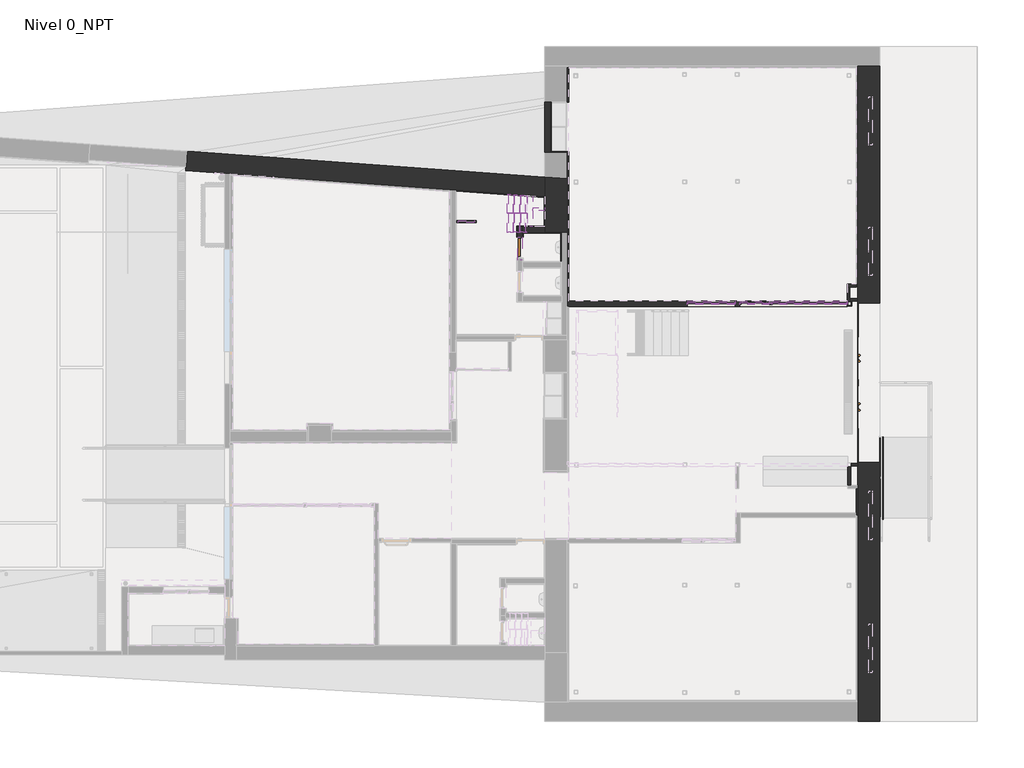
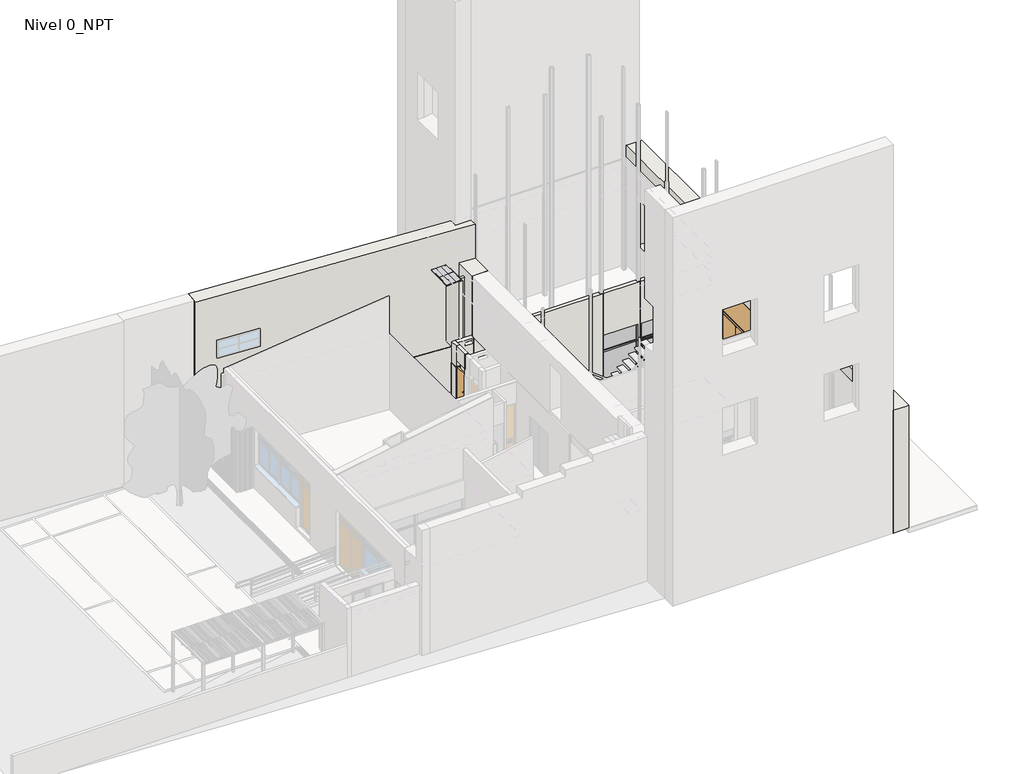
# One storey, part 4 of 10: 31 walls, 27 members, 12 plates, 2 doors.
"""IFC4 building model written with IfcOpenShell, lengths in millimetres."""

from ifc_helpers import new_model, si_unit, frame, origin, origin_with_axes, place, context, project, spatial, polyline, outline, extrude, faceted_brep, transform, mapped, element, save
from components import door_b717b98c, arq_pu_int_alu_muro_cortina_8b8c43b7, montante_rectangular_10x10_5bd723db, montante_rectangular_3x3_94af334b, montante_rectangular_3x3_5f3f12a8, montante_rectangular_3x3_048b7d03, montante_rectangular_3x3_fce5142b, montante_rectangular_3x3_7944bb15, montante_rectangular_3x3_4dd73645, montante_rectangular_3x3_912540fd, montante_rectangular_3x3_ade2416c, montante_rectangular_3x3_da87f401, montante_rectangular_3x3_93c7497e, montante_rectangular_3x3_420c5f01, montante_rectangular_3x3_f926777b, montante_rectangular_3x3_588625e3, montante_rectangular_5x10_45e54374, montante_rectangular_5x10_c640f651, montante_rectangular_5x10_7026a3ec, montante_rectangular_5x5_ec66791f, montante_rectangular_5x5_64893cda, montante_rectangular_5x5_87f91fce, montante_rectangular_5x5_5d55378c, plate_90a0065f, plate_c496a2fa, plate_78eba206, plate_9a7a51d2, plate_cf4ffe34, panel_de_sistema_c84e7177, panel_de_sistema_565d0dc5, panel_de_sistema_14e4dad8, panel_de_sistema_576842d0, panel_de_sistema_opaco_64d52f82

model = new_model("IFC4")

# Units and contexts
model_context = context("Model", 3, world=origin())
ifc_project = project(units=[si_unit("LENGTHUNIT", "METRE", prefix="MILLI")], contexts=[model_context])

# Site, building, storey
site = spatial("IfcSite", under=ifc_project)
building = spatial("IfcBuilding", under=site)
storey = spatial("IfcBuildingStorey", under=building, Name="Nivel 0_NPT", Elevation=0.0)

# Doors
placement = place(None, origin())
door_shape = door_b717b98c(model_context)
element("IfcDoor", 1, ObjectType="ARQ-MAM-EX-490x350-Vid : ARQ-MAM-EX-490x350-Vid", at=placement, inside=storey, context=model_context, shape_type="MappedRepresentation", body=[
    mapped(door_shape, transform((15304.8126262, 4008.607185, 0.0), x_axis=(0.0, 1.0, 0.0), y_axis=(-1.0, 0.0, 0.0), z_axis=(0.0, 0.0, 1.0))),
])
arq_pu_int_alu_muro_cortina_shape = arq_pu_int_alu_muro_cortina_8b8c43b7(model_context)
element("IfcDoor", 2, ObjectType="ARQ-PU-INT-Alu (muro cortina) : ARQ-PU-IN-Alu-sshh", at=placement, inside=storey, context=model_context, shape_type="MappedRepresentation", body=[
    mapped(arq_pu_int_alu_muro_cortina_shape, transform((4589.8126262, 8158.6072273, 320.0), x_axis=(0.0, 1.0, 0.0), y_axis=(-1.0, 0.0, 0.0), z_axis=(0.0, 0.0, 1.0))),
])

# Members
montante_rectangular_10x10_shape = montante_rectangular_10x10_5bd723db(model_context)
element("IfcMember", 3, ObjectType="Montante rectangular : 10x10", at=placement, inside=storey, context=model_context, shape_type="MappedRepresentation", body=[
    mapped(montante_rectangular_10x10_shape, transform((12246.8128558, 6459.960425, 0.0), x_axis=(1.0, 0.0, 0.0), y_axis=(0.0, -1.0, 0.0), z_axis=(0.0, 0.0, -1.0))),
])
montante_rectangular_3x3_shape = montante_rectangular_3x3_94af334b(model_context)
element("IfcMember", 4, ObjectType="Montante rectangular : 3x3", at=placement, inside=storey, context=model_context, shape_type="MappedRepresentation", body=[
    mapped(montante_rectangular_3x3_shape, transform((4397.9716772, 9793.2196154, 5865.6209139), x_axis=(0.07274868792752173, 0.9973407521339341, 0.0043649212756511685), y_axis=(0.059892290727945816, 0.0, -0.9982048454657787), z_axis=(-0.9955503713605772, 0.07287951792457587, -0.059733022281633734))),
])
montante_rectangular_3x3_2_shape = montante_rectangular_3x3_5f3f12a8(model_context)
element("IfcMember", 5, ObjectType="Montante rectangular : 3x3", at=placement, inside=storey, context=model_context, shape_type="MappedRepresentation", body=[
    mapped(montante_rectangular_3x3_2_shape, transform((4601.1307282, 8623.6072273, 5877.8104569), x_axis=(0.0, -1.0, 0.0), y_axis=(0.05989229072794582, 0.0, -0.9982048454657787), z_axis=(0.9982048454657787, 0.0, 0.05989229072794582))),
])
montante_rectangular_3x3_3_shape = montante_rectangular_3x3_048b7d03(model_context)
element("IfcMember", 6, ObjectType="Montante rectangular : 3x3", at=placement, inside=storey, context=model_context, shape_type="MappedRepresentation", body=[
    mapped(montante_rectangular_3x3_3_shape, transform((4224.7587716, 9215.8495763, 5855.2281395), x_axis=(0.0, 1.0, 0.0), y_axis=(0.05989229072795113, 0.0, -0.9982048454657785), z_axis=(-0.9982048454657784, 0.0, -0.059892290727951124))),
])
element("IfcMember", 7, ObjectType="Montante rectangular : 3x3", at=placement, inside=storey, context=model_context, shape_type="MappedRepresentation", body=[
    mapped(montante_rectangular_3x3_3_shape, transform((4616.1038009, 9215.8495763, 5878.7088413), x_axis=(0.0, 1.0, 0.0), y_axis=(0.05989229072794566, 0.0, -0.9982048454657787), z_axis=(-0.9982048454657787, 0.0, -0.05989229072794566))),
])
montante_rectangular_3x3_4_shape = montante_rectangular_3x3_fce5142b(model_context)
element("IfcMember", 8, ObjectType="Montante rectangular : 3x3", at=placement, inside=storey, context=model_context, shape_type="MappedRepresentation", body=[
    mapped(montante_rectangular_3x3_4_shape, transform((4412.9447499, 9215.8495763, 5866.5192982), x_axis=(0.0, 1.0, 0.0), y_axis=(0.05989229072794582, 0.0, -0.9982048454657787), z_axis=(-0.9982048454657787, 0.0, -0.05989229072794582))),
])
montante_rectangular_3x3_5_shape = montante_rectangular_3x3_7944bb15(model_context)
element("IfcMember", 9, ObjectType="Montante rectangular : 3x3", at=placement, inside=storey, context=model_context, shape_type="MappedRepresentation", body=[
    mapped(montante_rectangular_3x3_5_shape, transform((4774.3436338, 8623.6072273, 5888.2032313), x_axis=(0.0, -1.0, 0.0), y_axis=(0.05989229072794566, 0.0, -0.9982048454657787), z_axis=(0.9982048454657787, 0.0, 0.05989229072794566))),
])
element("IfcMember", 10, ObjectType="Montante rectangular : 3x3", at=placement, inside=storey, context=model_context, shape_type="MappedRepresentation", body=[
    mapped(montante_rectangular_3x3_5_shape, transform((4397.9716772, 8623.6072273, 5865.6209139), x_axis=(0.0, -1.0, 0.0), y_axis=(0.05989229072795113, 0.0, -0.9982048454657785), z_axis=(0.9982048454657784, 0.0, 0.059892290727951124))),
])
montante_rectangular_3x3_6_shape = montante_rectangular_3x3_4dd73645(model_context)
element("IfcMember", 11, ObjectType="Montante rectangular : 3x3", at=placement, inside=storey, context=model_context, shape_type="MappedRepresentation", body=[
    mapped(montante_rectangular_3x3_6_shape, transform((4804.2897792, 9763.4749955, 5890.0), x_axis=(0.9982048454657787, 0.0, 0.059892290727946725), y_axis=(0.059892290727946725, 0.0, -0.9982048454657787), z_axis=(0.0, 1.0, 0.0))),
])
montante_rectangular_3x3_7_shape = montante_rectangular_3x3_912540fd(model_context)
element("IfcMember", 12, ObjectType="Montante rectangular : 3x3", at=placement, inside=storey, context=model_context, shape_type="MappedRepresentation", body=[
    mapped(montante_rectangular_3x3_7_shape, transform((4194.8126262, 8623.6072273, 5853.4313708), x_axis=(-0.9982048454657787, 0.0, -0.059892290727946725), y_axis=(0.059892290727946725, 0.0, -0.9982048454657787), z_axis=(0.0, -1.0, 0.0))),
])
montante_rectangular_3x3_8_shape = montante_rectangular_3x3_ade2416c(model_context)
element("IfcMember", 13, ObjectType="Montante rectangular : 3x3", at=placement, inside=storey, context=model_context, shape_type="MappedRepresentation", body=[
    mapped(montante_rectangular_3x3_8_shape, transform((4194.8126262, 9808.0919254, 5853.4313708), x_axis=(0.0727486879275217, 0.9973407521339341, 0.004364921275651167), y_axis=(0.05989229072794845, 0.0, -0.9982048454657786), z_axis=(-0.9955503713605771, 0.07287951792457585, -0.05973302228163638))),
])
montante_rectangular_3x3_9_shape = montante_rectangular_3x3_da87f401(model_context)
element("IfcMember", 14, ObjectType="Montante rectangular : 3x3", at=placement, inside=storey, context=model_context, shape_type="MappedRepresentation", body=[
    mapped(montante_rectangular_3x3_9_shape, transform((4601.1307282, 8653.6072273, 5877.8104569), x_axis=(-0.9982048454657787, 0.0, -0.059892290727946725), y_axis=(0.059892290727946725, 0.0, -0.9982048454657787), z_axis=(0.0, -1.0, 0.0))),
])
element("IfcMember", 15, ObjectType="Montante rectangular : 3x3", at=placement, inside=storey, context=model_context, shape_type="MappedRepresentation", body=[
    mapped(montante_rectangular_3x3_9_shape, transform((4397.9716772, 8653.6072273, 5865.6209139), x_axis=(-0.9982048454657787, 0.0, -0.059892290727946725), y_axis=(0.059892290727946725, 0.0, -0.9982048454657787), z_axis=(0.0, -1.0, 0.0))),
])
montante_rectangular_3x3_10_shape = montante_rectangular_3x3_93c7497e(model_context)
element("IfcMember", 16, ObjectType="Montante rectangular : 3x3", at=placement, inside=storey, context=model_context, shape_type="MappedRepresentation", body=[
    mapped(montante_rectangular_3x3_10_shape, transform((4601.1307282, 9778.3473055, 5877.8104569), x_axis=(0.07274868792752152, 0.9973407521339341, 0.004364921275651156), y_axis=(0.059892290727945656, 0.0, -0.9982048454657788), z_axis=(-0.9955503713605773, 0.07287951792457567, -0.059733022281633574))),
])
montante_rectangular_3x3_11_shape = montante_rectangular_3x3_420c5f01(model_context)
element("IfcMember", 17, ObjectType="Montante rectangular : 3x3", at=placement, inside=storey, context=model_context, shape_type="MappedRepresentation", body=[
    mapped(montante_rectangular_3x3_11_shape, transform((4194.8126262, 9215.8495763, 5853.4313708), x_axis=(-0.9982048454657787, 0.0, -0.059892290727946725), y_axis=(0.059892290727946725, 0.0, -0.9982048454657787), z_axis=(0.0, -1.0, 0.0))),
])
element("IfcMember", 18, ObjectType="Montante rectangular : 3x3", at=placement, inside=storey, context=model_context, shape_type="MappedRepresentation", body=[
    mapped(montante_rectangular_3x3_7_shape, transform((4804.2897792, 9215.8495763, 5890.0), x_axis=(0.9982048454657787, 0.0, 0.059892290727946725), y_axis=(0.059892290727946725, 0.0, -0.9982048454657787), z_axis=(0.0, 1.0, 0.0))),
])
montante_rectangular_3x3_12_shape = montante_rectangular_3x3_f926777b(model_context)
element("IfcMember", 19, ObjectType="Montante rectangular : 3x3", at=placement, inside=storey, context=model_context, shape_type="MappedRepresentation", body=[
    mapped(montante_rectangular_3x3_12_shape, transform((4601.1307282, 9215.8495763, 5877.8104569), x_axis=(-0.9982048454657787, 0.0, -0.059892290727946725), y_axis=(0.059892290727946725, 0.0, -0.9982048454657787), z_axis=(0.0, -1.0, 0.0))),
])
montante_rectangular_3x3_13_shape = montante_rectangular_3x3_588625e3(model_context)
element("IfcMember", 20, ObjectType="Montante rectangular : 3x3", at=placement, inside=storey, context=model_context, shape_type="MappedRepresentation", body=[
    mapped(montante_rectangular_3x3_13_shape, transform((4397.9716772, 9215.8495763, 5865.6209139), x_axis=(-0.9982048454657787, 0.0, -0.059892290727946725), y_axis=(0.059892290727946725, 0.0, -0.9982048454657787), z_axis=(0.0, -1.0, 0.0))),
])
montante_rectangular_5x10_shape = montante_rectangular_5x10_45e54374(model_context)
element("IfcMember", 21, ObjectType="Montante rectangular : 5x10", at=placement, inside=storey, context=model_context, shape_type="MappedRepresentation", body=[
    mapped(montante_rectangular_5x10_shape, transform((9731.8128631, 6459.960425, 2225.0), x_axis=(0.0, 0.0, 1.0), y_axis=(0.0, 1.0, 0.0), z_axis=(-1.0, 0.0, 0.0))),
])
montante_rectangular_5x10_2_shape = montante_rectangular_5x10_c640f651(model_context)
element("IfcMember", 22, ObjectType="Montante rectangular : 5x10", at=placement, inside=storey, context=model_context, shape_type="MappedRepresentation", body=[
    mapped(montante_rectangular_5x10_2_shape, transform((12246.8128558, 6459.960425, 2225.0), x_axis=(0.0, 0.0, 1.0), y_axis=(0.0, -1.0, 0.0), z_axis=(1.0, 0.0, 0.0))),
])
montante_rectangular_5x10_3_shape = montante_rectangular_5x10_7026a3ec(model_context)
element("IfcMember", 23, ObjectType="Montante rectangular : 5x10", at=placement, inside=storey, context=model_context, shape_type="MappedRepresentation", body=[
    mapped(montante_rectangular_5x10_3_shape, transform((14640.8126262, 6459.960425, 2225.0), x_axis=(0.0, 0.0, 1.0), y_axis=(0.0, -1.0, 0.0), z_axis=(1.0, 0.0, 0.0))),
])
montante_rectangular_5x5_shape = montante_rectangular_5x5_ec66791f(model_context)
element("IfcMember", 24, ObjectType="Montante rectangular : 5x5", at=placement, inside=storey, context=model_context, shape_type="MappedRepresentation", body=[
    mapped(montante_rectangular_5x5_shape, transform((4589.8126262, 8483.6072273, 0.0), x_axis=(0.0, 1.0, 0.0), y_axis=(1.0, 0.0, 0.0), z_axis=(0.0, 0.0, -1.0))),
])
montante_rectangular_5x5_2_shape = montante_rectangular_5x5_64893cda(model_context)
element("IfcMember", 25, ObjectType="Montante rectangular : 5x5", at=placement, inside=storey, context=model_context, shape_type="MappedRepresentation", body=[
    mapped(montante_rectangular_5x5_2_shape, transform((4589.8126262, 8483.6072273, 320.0), x_axis=(0.0, 1.0, 0.0), y_axis=(1.0, 0.0, 0.0), z_axis=(0.0, 0.0, -1.0))),
])
montante_rectangular_5x5_3_shape = montante_rectangular_5x5_87f91fce(model_context)
element("IfcMember", 26, ObjectType="Montante rectangular : 5x5", at=placement, inside=storey, context=model_context, shape_type="MappedRepresentation", body=[
    mapped(montante_rectangular_5x5_3_shape, transform((3237.4067247, 8962.0487017, 0.0), x_axis=(1.0, 0.0, 0.0), y_axis=(0.0, -1.0, 0.0), z_axis=(0.0, 0.0, -1.0))),
])
element("IfcMember", 27, ObjectType="Montante rectangular : 5x5", at=placement, inside=storey, context=model_context, shape_type="MappedRepresentation", body=[
    mapped(montante_rectangular_5x5_3_shape, transform((2637.4067247, 8962.0487017, 2100.0), x_axis=(-1.0, 0.0, 0.0), y_axis=(0.0, -1.0, 0.0), z_axis=(0.0, 0.0, 1.0))),
])
montante_rectangular_5x5_4_shape = montante_rectangular_5x5_5d55378c(model_context)
element("IfcMember", 28, ObjectType="Montante rectangular : 5x5", at=placement, inside=storey, context=model_context, shape_type="MappedRepresentation", body=[
    mapped(montante_rectangular_5x5_4_shape, transform((3187.4067247, 8962.0487017, 2100.0), x_axis=(0.0, 0.0, 1.0), y_axis=(0.0, -1.0, 0.0), z_axis=(1.0, 0.0, 0.0))),
])
element("IfcMember", 29, ObjectType="Montante rectangular : 5x5", at=placement, inside=storey, context=model_context, shape_type="MappedRepresentation", body=[
    mapped(montante_rectangular_5x5_4_shape, transform((2687.4067247, 8962.0487017, 0.0), x_axis=(0.0, 0.0, -1.0), y_axis=(0.0, -1.0, 0.0), z_axis=(-1.0, 0.0, 0.0))),
])

# Plates
plate_shape = plate_90a0065f(model_context)
element("IfcPlate", 30, ObjectType="ARQ-PA-IN-Vidrio Fijo : ARQ-PA-IN-Vidrio Fijo", at=placement, inside=storey, context=model_context, shape_type="MappedRepresentation", body=[
    mapped(plate_shape, transform((10463.812667, 6459.960425, 2250.0), x_axis=(-1.0, 0.0, 0.0), y_axis=(0.0, -1.0, 0.0), z_axis=(0.0, 0.0, 1.0))),
])
plate_2_shape = plate_c496a2fa(model_context)
element("IfcPlate", 31, ObjectType="ARQ-PA-IN-Vidrio Fijo : ARQ-PA-IN-Vidrio Fijo", at=placement, inside=storey, context=model_context, shape_type="MappedRepresentation", body=[
    mapped(plate_2_shape, transform((12993.812741, 6459.960425, 2250.0), x_axis=(1.0, 0.0, 0.0), y_axis=(0.0, 1.0, 0.0), z_axis=(0.0, 0.0, 1.0))),
])
plate_3_shape = plate_78eba206(model_context)
element("IfcPlate", 32, ObjectType="ARQ-PA-IN-Vidrio Fijo Laminado  : ARQ-PA-IN-Vidrio Fijo Laminado ", at=placement, inside=storey, context=model_context, shape_type="MappedRepresentation", body=[
    mapped(plate_3_shape, transform((10463.812667, 6459.960425, 0.0), x_axis=(-1.0, 0.0, 0.0), y_axis=(0.0, -1.0, 0.0), z_axis=(0.0, 0.0, 1.0))),
])
plate_4_shape = plate_9a7a51d2(model_context)
element("IfcPlate", 33, ObjectType="ARQ-PA-IN-Vidrio Fijo Laminado  : ARQ-PA-IN-Vidrio Fijo Laminado ", at=placement, inside=storey, context=model_context, shape_type="MappedRepresentation", body=[
    mapped(plate_4_shape, transform((13493.812741, 6459.960425, 0.0), x_axis=(1.0, 0.0, 0.0), y_axis=(0.0, 1.0, 0.0), z_axis=(0.0, 0.0, 1.0))),
])
plate_5_shape = plate_cf4ffe34(model_context)
element("IfcPlate", 34, ObjectType="ARQ-PA-IN-AluVid-Puerta : ARQ-PA-IN-AluVid-Puerta", at=placement, inside=storey, context=model_context, shape_type="MappedRepresentation", body=[
    mapped(plate_5_shape, transform((11796.8128558, 6459.960425, 0.0), x_axis=(-1.0, 0.0, 0.0), y_axis=(0.0, -1.0, 0.0), z_axis=(0.0, 0.0, 1.0))),
])
panel_de_sistema_shape = panel_de_sistema_c84e7177(model_context)
element("IfcPlate", 35, ObjectType="Panel de sistema : Acristalado Superor", at=placement, inside=storey, context=model_context, shape_type="MappedRepresentation", body=[
    mapped(panel_de_sistema_shape, transform((4804.2897792, 8919.7284018, 5890.0), x_axis=(0.0, 1.0, 0.0), y_axis=(0.059892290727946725, 0.0, -0.9982048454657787), z_axis=(-0.9982048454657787, 0.0, -0.059892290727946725))),
])
element("IfcPlate", 36, ObjectType="Panel de sistema : Acristalado Superor", at=placement, inside=storey, context=model_context, shape_type="MappedRepresentation", body=[
    mapped(panel_de_sistema_shape, transform((4601.1307282, 8919.7284018, 5877.8104569), x_axis=(0.0, 1.0, 0.0), y_axis=(0.059892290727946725, 0.0, -0.9982048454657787), z_axis=(-0.9982048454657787, 0.0, -0.059892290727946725))),
])
element("IfcPlate", 37, ObjectType="Panel de sistema : Acristalado Superor", at=placement, inside=storey, context=model_context, shape_type="MappedRepresentation", body=[
    mapped(panel_de_sistema_shape, transform((4397.9716772, 8919.7284018, 5865.6209139), x_axis=(0.0, 1.0, 0.0), y_axis=(0.059892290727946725, 0.0, -0.9982048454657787), z_axis=(-0.9982048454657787, 0.0, -0.059892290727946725))),
])
panel_de_sistema_2_shape = panel_de_sistema_565d0dc5(model_context)
element("IfcPlate", 38, ObjectType="Panel de sistema : Acristalado Superor", at=placement, inside=storey, context=model_context, shape_type="MappedRepresentation", body=[
    mapped(panel_de_sistema_2_shape, transform((4804.2897792, 9497.0984409, 5890.0), x_axis=(0.0, 1.0, 0.0), y_axis=(0.059892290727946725, 0.0, -0.9982048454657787), z_axis=(-0.9982048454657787, 0.0, -0.059892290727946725))),
])
panel_de_sistema_3_shape = panel_de_sistema_14e4dad8(model_context)
element("IfcPlate", 39, ObjectType="Panel de sistema : Acristalado Superor", at=placement, inside=storey, context=model_context, shape_type="MappedRepresentation", body=[
    mapped(panel_de_sistema_3_shape, transform((4601.1307282, 9504.5345959, 5877.8104569), x_axis=(0.0, 1.0, 0.0), y_axis=(0.059892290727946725, 0.0, -0.9982048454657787), z_axis=(-0.9982048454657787, 0.0, -0.059892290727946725))),
])
panel_de_sistema_4_shape = panel_de_sistema_576842d0(model_context)
element("IfcPlate", 40, ObjectType="Panel de sistema : Acristalado Superor", at=placement, inside=storey, context=model_context, shape_type="MappedRepresentation", body=[
    mapped(panel_de_sistema_4_shape, transform((4397.9716772, 9511.9707509, 5865.6209139), x_axis=(0.0, 1.0, 0.0), y_axis=(0.059892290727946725, 0.0, -0.9982048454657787), z_axis=(-0.9982048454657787, 0.0, -0.059892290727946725))),
])
panel_de_sistema_opaco_shape = panel_de_sistema_opaco_64d52f82(model_context)
element("IfcPlate", 41, ObjectType="Panel de sistema : Opaco", at=placement, inside=storey, context=model_context, shape_type="MappedRepresentation", body=[
    mapped(panel_de_sistema_opaco_shape, transform((2937.4067247, 8962.0487017, 50.0), x_axis=(1.0, 0.0, 0.0), y_axis=(0.0, 1.0, 0.0), z_axis=(0.0, 0.0, 1.0))),
])

# Walls
element("IfcWall", 42, ObjectType="ARQ-MU-EX-68-Lad", at=placement, inside=storey, context=model_context, shape_type="Brep", body=[
    faceted_brep([(14964.8126262, 6458.607185, 3550.0), (14964.8126262, 1558.607185, 3550.0), (14964.8126262, 1558.607185, 0.0), (14964.8126262, 1558.607185, -200.0), (14964.8126262, -5806.3671234, -200.0), (14964.8126262, -6406.3671234, -200.0), (14964.8126262, -6406.3671234, 5450.0), (14964.8126262, 13743.6072273, 5450.0), (14964.8126262, 13743.6072273, -200.0), (14964.8126262, 6458.607185, -200.0), (14964.8126262, 6458.607185, 0.0), (14964.8126262, 11223.6072273, 1400.0), (14964.8126262, 12873.6072274, 1400.0), (14964.8126262, 12873.6072274, 3550.0), (14964.8126262, 11223.6072273, 3550.0), (14964.8126262, 743.6072273, 3550.0), (14964.8126262, -906.3927727, 3550.0), (14964.8126262, -906.3927727, 1400.0), (14964.8126262, 743.6072273, 1400.0), (14964.8126262, -3336.3927727, 3550.0), (14964.8126262, -4986.3927727, 3550.0), (14964.8126262, -4986.3927727, 1400.0), (14964.8126262, -3336.3927727, 1400.0), (14964.8126262, 8863.6072273, 3550.0), (14964.8126262, 7213.6072273, 3550.0), (14964.8126262, 7213.6072273, 1400.0), (14964.8126262, 8863.6072273, 1400.0), (15644.8126262, 1558.607185, 3550.0), (15644.8126262, 6458.607185, 3550.0), (15644.8126262, 6458.607185, 0.0), (15644.8126262, 6458.607185, -200.0), (15644.8126262, 13743.6072273, -200.0), (15644.8126262, 13743.6072273, 5450.0), (15644.8126262, -6406.3671234, 5450.0), (15644.8126262, -6406.3671234, -200.0), (15644.8126262, 1558.607185, -200.0), (15644.8126262, 1558.607185, 0.0), (15644.8126262, 11303.6072273, 1400.0), (15644.8126262, 11303.6072273, 3550.0), (15644.8126262, 12803.6072273, 3550.0), (15644.8126262, 12803.6072273, 1400.0), (15644.8126262, -3406.3927727, 3550.0), (15644.8126262, -3406.3927727, 1400.0), (15644.8126262, -4906.3927727, 1400.0), (15644.8126262, -4906.3927727, 3550.0), (15644.8126262, 673.6072273, 3550.0), (15644.8126262, 673.6072273, 1400.0), (15644.8126262, -826.3927727, 1400.0), (15644.8126262, -826.3927727, 3550.0), (15644.8126262, 8793.6072273, 3550.0), (15644.8126262, 8793.6072273, 1400.0), (15644.8126262, 7293.6072273, 1400.0), (15644.8126262, 7293.6072273, 3550.0), (15354.8126262, 11303.6072273, 1400.0), (15354.8126262, 11303.6072273, 3550.0), (15306.0626264, 12803.6072273, 3550.0), (15354.8126262, -826.3927727, 3550.0), (15306.0626262, 673.6072273, 3550.0), (15306.0626262, 8793.6072273, 3550.0), (15354.8126262, 7293.6072273, 3550.0), (15306.0626262, -3406.3927727, 3550.0), (15354.8126262, -4906.3927727, 3550.0), (15306.0626264, 12803.6072273, 1400.0), (15354.8126262, -826.3927727, 1400.0), (15306.0626262, 673.6072273, 1400.0), (15306.0626262, 8793.6072273, 1400.0), (15354.8126262, 7293.6072273, 1400.0), (15306.0626262, -3406.3927727, 1400.0), (15354.8126262, -4906.3927727, 1400.0), (15544.8126262, -6406.3671234, 5450.0), (15544.8126262, 13743.6072273, 5450.0)], [[[0, 1, 2, 3, 4, 5, 6, 7, 8, 9, 10], [11, 12, 13, 14], [15, 16, 17, 18], [19, 20, 21, 22], [23, 24, 25, 26]], [[27, 28, 29, 30, 31, 32, 33, 34, 35, 36], [37, 38, 39, 40], [41, 42, 43, 44], [45, 46, 47, 48], [49, 50, 51, 52]], [[38, 37, 53, 54]], [[39, 38, 54, 14, 13, 55]], [[56, 16, 15, 57, 45, 48]], [[23, 58, 49, 52, 59, 24]], [[19, 60, 41, 44, 61, 20]], [[37, 40, 62, 12, 11, 53]], [[17, 63, 47, 46, 64, 18]], [[65, 26, 25, 66, 51, 50]], [[67, 22, 21, 68, 43, 42]], [[40, 39, 55, 62]], [[28, 0, 10, 9, 30, 29]], [[1, 0, 28, 27]], [[1, 27, 36, 35, 3, 2]], [[5, 4, 3, 35, 34]], [[7, 6, 69, 33, 32, 70]], [[9, 8, 31, 30]], [[6, 5, 34, 33, 69]], [[8, 7, 70, 32, 31]], [[42, 41, 60, 67]], [[44, 43, 68, 61]], [[46, 45, 57, 64]], [[48, 47, 63, 56]], [[50, 49, 58, 65]], [[52, 51, 66, 59]], [[26, 65, 58, 23]], [[66, 25, 24, 59]], [[12, 62, 55, 13]], [[53, 11, 14, 54]], [[18, 64, 57, 15]], [[63, 17, 16, 56]], [[22, 67, 60, 19]], [[68, 21, 20, 61]]]),
])
element("IfcWall", 43, ObjectType="ARQ-MU-IN-68-Gen", at=placement, inside=storey, context=model_context, shape_type="Brep", body=[
    faceted_brep([(6034.2897792, 8623.6072273, 3060.0), (6034.2897792, 8623.6072273, 0.0), (6034.2897792, 8623.6072273, -20.0), (6034.2897792, 9673.4325329, -20.0), (6034.2897792, 10275.0380875, -20.0), (6034.2897792, 10275.0380875, 5840.0), (6034.2897792, 9673.4325329, 5840.0), (6034.2897792, 8713.6072273, 5840.0), (6034.2897792, 8713.6072273, 3060.0), (5354.2897792, 8623.6072273, -20.0), (5354.2897792, 8623.6072273, 0.0), (5354.2897792, 8623.6072273, 3060.0), (5354.2897792, 8713.6072273, 3060.0), (5354.2897792, 8713.6072273, 5840.0), (5354.2897792, 9723.2121057, 5840.0), (5354.2897792, 10324.8176603, 5840.0), (5354.2897792, 10324.8176603, -20.0), (5354.2897792, 9723.2121057, -20.0), (5864.2897792, 8623.6072273, 3060.0)], [[[0, 1, 2, 3, 4, 5, 6, 7, 8]], [[9, 10, 11, 12, 13, 14, 15, 16, 17]], [[4, 3, 2, 9, 17, 16]], [[7, 6, 5, 15, 14, 13]], [[4, 16, 15, 5]], [[8, 12, 11, 18, 0]], [[7, 13, 12, 8]], [[0, 18, 11, 10, 9, 2, 1]]]),
])
element("IfcWall", 44, ObjectType="ARQ-MU-IN-18-Gen", at=placement, inside=storey, context=model_context, shape_type="Brep", body=[
    faceted_brep([(5354.2897792, 8803.6072273, 3060.0), (5354.2897792, 8803.6072273, 0.0), (4664.8126262, 8803.6072273, 0.0), (4664.8126262, 8803.6072273, 3060.0), (4984.2897792, 8803.6072273, 2950.0), (4984.2897792, 8803.6072273, 2800.0), (5344.2897792, 8803.6072273, 2800.0), (5344.2897792, 8803.6072273, 2950.0), (5354.2897792, 8623.6072273, 0.0), (5354.2897792, 8623.6072273, 3060.0), (4664.8126262, 8623.6072273, 3060.0), (4664.8126262, 8623.6072273, 2080.0), (4664.8126262, 8623.6072273, 0.0), (4984.2897792, 8623.6072273, 2950.0), (5344.2897792, 8623.6072273, 2950.0), (5344.2897792, 8623.6072273, 2800.0), (4984.2897792, 8623.6072273, 2800.0), (5354.2897792, 8713.6072273, 3060.0)], [[[0, 1, 2, 3], [4, 5, 6, 7]], [[8, 9, 10, 11, 12], [13, 14, 15, 16]], [[3, 2, 12, 11, 10]], [[2, 1, 8, 12]], [[0, 3, 10, 9, 17]], [[6, 5, 16, 15]], [[7, 6, 15, 14]], [[4, 7, 14, 13]], [[5, 4, 13, 16]], [[0, 17, 9, 8, 1]]]),
])
element("IfcWall", 45, ObjectType="ARQ-MU-EX-17-Lad", at=placement, inside=storey, context=model_context, shape_type="Brep", body=[
    faceted_brep([(5354.2897792, 12641.1072273, -200.0), (5354.2897792, 11096.1072273, -200.0), (5354.2897792, 11096.1072273, 2200.0), (5354.2897792, 12628.6072273, 2200.0), (5354.2897792, 12628.6072273, -20.0), (5354.2897792, 12641.1072273, -20.0), (5524.2897792, 11096.1072273, -200.0), (5524.2897792, 12641.1072273, -200.0), (5524.2897792, 12641.1072273, -20.0), (5524.2897792, 12628.6072273, -20.0), (5524.2897792, 12628.6072273, 2200.0), (5524.2897792, 11108.6072273, 2200.0), (5524.2897792, 11096.1072273, 2200.0), (5524.2897792, 11096.1072273, -20.0)], [[[0, 1, 2, 3, 4, 5]], [[6, 7, 8, 9, 10, 11, 12, 13]], [[1, 0, 7, 6]], [[3, 2, 12, 11, 10]], [[1, 6, 13, 12, 2]], [[7, 0, 5, 8]], [[9, 8, 5, 4]], [[4, 3, 10, 9]]]),
])
element("IfcWall", 46, ObjectType="ARQ-MU-IN-15-Gen", at=placement, inside=storey, context=model_context, shape_type="Brep", body=[
    faceted_brep([(4664.8126262, 8483.6072273, 0.0), (4664.8126262, 8623.6072273, 0.0), (4664.8126262, 8803.6072273, 0.0), (4664.8126262, 8803.6072273, 3060.0), (4664.8126262, 8623.6072273, 3060.0), (4664.8126262, 8483.6072273, 3060.0), (4664.8126262, 8483.6072273, 2400.0), (4514.8126262, 8483.6072273, 0.0), (4514.8126262, 8483.6072273, 2400.0), (4514.8126262, 8483.6072273, 3060.0), (4514.8126262, 8803.6072273, 3060.0), (4514.8126262, 8803.6072273, 0.0)], [[[0, 1, 2, 3, 4, 5, 6]], [[7, 8, 9, 10, 11]], [[2, 1, 0, 7, 11]], [[5, 4, 3, 10, 9]], [[0, 6, 5, 9, 8, 7]], [[3, 2, 11, 10]]]),
])
element("IfcWall", 47, ObjectType="ARQ-MU-IN-8-Ye-T3", at=placement, inside=storey, context=model_context, shape_type="SweptSolid", body=[
    extrude(outline(polyline([(14664.854766, 842.2485055), (14664.854766, 1424.5940615), (14744.854766, 1424.5940615), (14744.854766, 842.2485055), (14664.854766, 842.2485055)])), frame((0.0, 0.0, -20.0), z_axis=(0.0, 0.0, 1.0), x_axis=(1.0, 0.0, 0.0)), (0.0, 0.0, 1.0), 4930.0),
])
element("IfcWall", 48, ObjectType="ARQ-MU-IN-8-Ye-T3", at=placement, inside=storey, context=model_context, shape_type="SweptSolid", body=[
    extrude(outline(polyline([(14964.8126262, 1452.1072236), (14764.8707806, 1452.1072236), (14764.8707806, 1532.1072236), (14964.8126262, 1532.1072236), (14964.8126262, 1452.1072236)])), frame((0.0, 0.0, -20.0), z_axis=(0.0, 0.0, 1.0), x_axis=(1.0, 0.0, 0.0)), (0.0, 0.0, 1.0), 4930.0),
])
element("IfcWall", 49, ObjectType="ARQ-MU-IN-16-Ye-T1", at=placement, inside=storey, context=model_context, shape_type="Brep", body=[
    faceted_brep([(6034.2897792, 6355.6072273, -20.0), (6084.2897792, 6355.6072273, -20.0), (14640.8126262, 6355.6072273, -20.0), (14640.8126262, 6355.6072273, 0.0), (11346.8128558, 6355.6072273, 0.0), (11346.8128558, 6355.6072273, 3000.0), (14640.8126262, 6355.6072273, 3000.0), (14640.8126262, 6355.6072273, 4940.0), (6034.2897792, 6355.6072273, 4940.0), (6034.2897792, 6355.6072273, 4910.0), (11195.8124708, 6355.6072273, 3000.0), (11195.8124708, 6355.6072273, 0.0), (9731.8128631, 6355.6072273, 0.0), (9731.8128631, 6355.6072273, 3000.0), (14640.8126262, 6515.6072273, -20.0), (6084.2897792, 6515.6072273, -20.0), (6034.2897792, 6515.6072273, -20.0), (6034.2897792, 6515.6072273, 4910.0), (6034.2897792, 6515.6072273, 4940.0), (14640.8126262, 6515.6072273, 4940.0), (14640.8126262, 6515.6072273, 3000.0), (11346.8128558, 6515.6072273, 3000.0), (11346.8128558, 6515.6072273, 0.0), (14640.8126262, 6515.6072273, 0.0), (11195.8124708, 6515.6072273, 0.0), (11195.8124708, 6515.6072273, 3000.0), (9731.8128631, 6515.6072273, 3000.0), (9731.8128631, 6515.6072273, 0.0), (14640.8126262, 6509.6073696, -20.0), (14640.8126262, 6494.6073696, -20.0), (14640.8126262, 6374.6073696, -20.0), (14640.8126262, 6359.6073696, -20.0)], [[[0, 1, 2, 3, 4, 5, 6, 7, 8, 9], [10, 11, 12, 13]], [[14, 15, 16, 17, 18, 19, 20, 21, 22, 23], [24, 25, 26, 27]], [[2, 1, 0, 16, 15, 14, 28, 29, 30, 31]], [[8, 7, 19, 18]], [[16, 0, 9, 8, 18, 17]], [[19, 7, 6, 20]], [[2, 31, 30, 29, 28, 14, 23, 3]], [[24, 11, 10, 25]], [[25, 10, 13, 26]], [[26, 13, 12, 27]], [[11, 24, 27, 12]], [[4, 22, 21, 5]], [[5, 21, 20, 6]], [[22, 4, 3, 23]]]),
])
element("IfcWall", 50, ObjectType="ARQ-RE-IN-5-Ye-M2", at=placement, inside=storey, context=model_context, shape_type="Brep", body=[
    faceted_brep([(14964.8126262, -66.3913714, 3550.0), (14964.8126262, 743.6072273, 3550.0), (14964.8126262, 743.6072273, 1400.0), (14964.8126262, -66.3913714, 1400.0), (14964.8126262, -66.3913714, -20.0), (14964.8126262, 762.2485055, -20.0), (14964.8126262, 762.2485055, 4910.0), (14964.8126262, -66.3913714, 4910.0), (14914.8126262, -66.3913714, 3550.0), (14914.8126262, -66.3913714, 4910.0), (14914.8126262, -1.3913714, 4910.0), (14914.8126262, 762.2485055, 4910.0), (14914.8126262, 762.2485055, -20.0), (14914.8126262, -1.3913714, -20.0), (14914.8126262, -66.3913714, -20.0), (14914.8126262, -66.3913714, 1400.0), (14914.8126262, 743.6072273, 1400.0), (14914.8126262, 743.6072273, 3550.0)], [[[0, 1, 2, 3, 4, 5, 6, 7]], [[8, 9, 10, 11, 12, 13, 14, 15, 16, 17]], [[6, 5, 12, 11]], [[5, 4, 14, 13, 12]], [[7, 6, 11, 10, 9]], [[0, 7, 9, 8]], [[1, 0, 8, 17]], [[2, 1, 17, 16]], [[3, 2, 16, 15]], [[4, 3, 15, 14]]]),
])
element("IfcWall", 51, ObjectType="ARQ-MU-IN-8-Ye-T3", at=placement, inside=storey, context=model_context, shape_type="Brep", body=[
    faceted_brep([(14914.8126262, 7033.6044262, -20.0), (14645.8192808, 7033.6079684, -20.0), (14645.8192808, 7033.6079684, 4910.0), (14914.8126262, 7033.6044262, 4910.0), (14914.8126262, 6953.6044262, -20.0), (14914.8126262, 6953.6044262, 4910.0), (14725.8192808, 6953.6069149, 4910.0), (14645.8192808, 6953.6079684, 4910.0), (14645.8192808, 6953.6079684, -20.0), (14725.8192808, 6953.6069149, -20.0)], [[[0, 1, 2, 3]], [[4, 5, 6, 7, 8, 9]], [[1, 0, 4, 9, 8]], [[3, 2, 7, 6, 5]], [[0, 3, 5, 4]], [[2, 1, 8, 7]]]),
])
element("IfcWall", 52, ObjectType="ARQ-MU-IN-8-Ye-T3", at=placement, inside=storey, context=model_context, shape_type="Brep", body=[
    faceted_brep([(14645.8192808, 6953.6079684, -20.0), (14645.8192808, 6515.6128714, -20.0), (14645.8192808, 6515.6128714, 4910.0), (14645.8192808, 6953.6079684, 4910.0), (14725.8192808, 6953.6069149, -20.0), (14725.8192808, 6953.6069149, 4910.0), (14725.8192808, 6595.6128714, 4910.0), (14725.8192808, 6515.6128714, 4910.0), (14725.8192808, 6515.6128714, -20.0), (14725.8192808, 6595.6128714, -20.0)], [[[0, 1, 2, 3]], [[4, 5, 6, 7, 8, 9]], [[1, 0, 4, 9, 8]], [[3, 2, 7, 6, 5]], [[0, 3, 5, 4]], [[2, 1, 8, 7]]]),
])
element("IfcWall", 53, ObjectType="ARQ-MU-IN-8-Ye-T3", at=placement, inside=storey, context=model_context, shape_type="SweptSolid", body=[
    extrude(outline(polyline([(14725.8192808, 6595.6128714), (14964.8126262, 6595.6128714), (14964.8126262, 6515.6128714), (14725.8192808, 6515.6128714), (14725.8192808, 6595.6128714)])), frame((0.0, 0.0, -20.0), z_axis=(0.0, 0.0, 1.0), x_axis=(1.0, 0.0, 0.0)), (0.0, 0.0, 1.0), 4930.0),
])
element("IfcWall", 54, ObjectType="ARQ-RE-IN-1.5-Ye", at=placement, inside=storey, context=model_context, shape_type="Brep", body=[
    faceted_brep([(14640.8126262, 6494.6073696, -20.0), (14655.8126262, 6494.6073696, -20.0), (14765.8126262, 6494.6073696, -20.0), (14780.8126262, 6494.6073696, -20.0), (14780.8126262, 6494.6073696, 4910.0), (14765.8126262, 6494.6073696, 4910.0), (14655.8126262, 6494.6073696, 4910.0), (14640.8126262, 6494.6073696, 4910.0), (14640.8126262, 6509.6073696, -20.0), (14640.8126262, 6509.6073696, 4910.0), (14780.8126262, 6509.6073696, 4910.0), (14780.8126262, 6509.6073696, -20.0)], [[[0, 1, 2, 3, 4, 5, 6, 7]], [[8, 9, 10, 11]], [[4, 3, 11, 10]], [[0, 7, 9, 8]], [[3, 2, 1, 0, 8, 11]], [[7, 6, 5, 4, 10, 9]]]),
])
element("IfcWall", 55, ObjectType="ARQ-RE-IN-1.5-Ye", at=placement, inside=storey, context=model_context, shape_type="Brep", body=[
    faceted_brep([(14765.8126262, 6494.6073696, -20.0), (14765.8126262, 6374.6073696, -20.0), (14765.8126262, 6359.6073696, -20.0), (14765.8126262, 6359.6073696, 4910.0), (14765.8126262, 6374.6073696, 4910.0), (14765.8126262, 6494.6073696, 4910.0), (14780.8126262, 6494.6073696, -20.0), (14780.8126262, 6494.6073696, 4910.0), (14780.8126262, 6359.6073696, 4910.0), (14780.8126262, 6359.6073696, -20.0)], [[[0, 1, 2, 3, 4, 5]], [[6, 7, 8, 9]], [[2, 1, 0, 6, 9]], [[5, 4, 3, 8, 7]], [[0, 5, 7, 6]], [[3, 2, 9, 8]]]),
])
element("IfcWall", 56, ObjectType="ARQ-RE-IN-1.5-Ye", at=placement, inside=storey, context=model_context, shape_type="Brep", body=[
    faceted_brep([(14640.8126262, 6359.6073696, -20.0), (14765.8126262, 6359.6073696, -20.0), (14765.8126262, 6359.6073696, 4910.0), (14640.8126262, 6359.6073696, 4910.0), (14640.8126262, 6374.6073696, -20.0), (14640.8126262, 6374.6073696, 4910.0), (14655.8126262, 6374.6073696, 4910.0), (14765.8126262, 6374.6073696, 4910.0), (14765.8126262, 6374.6073696, -20.0), (14655.8126262, 6374.6073696, -20.0)], [[[0, 1, 2, 3]], [[4, 5, 6, 7, 8, 9]], [[1, 0, 4, 9, 8]], [[3, 2, 7, 6, 5]], [[0, 3, 5, 4]], [[2, 1, 8, 7]]]),
])
element("IfcWall", 57, ObjectType="ARQ-RE-IN-1.5-Ye", at=placement, inside=storey, context=model_context, shape_type="SweptSolid", body=[
    extrude(outline(polyline([(14655.8126262, 6494.6073696), (14655.8126262, 6374.6073696), (14640.8126262, 6374.6073696), (14640.8126262, 6494.6073696), (14655.8126262, 6494.6073696)])), frame((0.0, 0.0, -20.0), z_axis=(0.0, 0.0, 1.0), x_axis=(1.0, 0.0, 0.0)), (0.0, 0.0, 1.0), 4930.0),
])
element("IfcWall", 58, ObjectType="ARQ-RE-IN-2-Ye-M4", at=placement, inside=storey, context=model_context, shape_type="SweptSolid", body=[
    extrude(outline(polyline([(5549.2897792, 12628.6072273), (5549.2897792, 11096.1072273), (5524.2897792, 11096.1072273), (5524.2897792, 12628.6072273), (5549.2897792, 12628.6072273)])), origin_with_axes(), (0.0, 0.0, 1.0), 2200.0),
])
element("IfcWall", 59, ObjectType="ARQ-MU-IN-18-Gen", at=placement, inside=storey, context=model_context, shape_type="Brep", body=[
    faceted_brep([(4984.2897792, 8803.6072273, 5704.6831466), (4984.2897792, 8803.6072273, 5440.0), (4984.2897792, 8803.6072273, 2950.0), (4984.2897792, 8803.6072273, 2800.0), (4984.2897792, 8803.6072273, 2412.0), (4984.2897792, 9293.6072273, 2412.0), (4984.2897792, 9393.6072273, 2412.0), (4984.2897792, 9750.2980498, 2412.0), (4984.2897792, 9750.2980498, 5704.6831466), (4804.2897792, 8803.6072273, 2412.0), (4804.2897792, 8803.6072273, 5704.6831466), (4804.2897792, 9763.4749955, 5704.6831466), (4804.2897792, 9763.4749955, 2412.0)], [[[0, 1, 2, 3, 4, 5, 6, 7, 8]], [[9, 10, 11, 12]], [[7, 6, 5, 4, 9, 12]], [[0, 8, 11, 10]], [[8, 7, 12, 11]], [[0, 10, 9, 4, 3, 2, 1]]]),
])
element("IfcWall", 60, ObjectType="ARQ-MU-IN-10-Ye-T8", at=placement, inside=storey, context=model_context, shape_type="SweptSolid", body=[
    extrude(outline(polyline([(5354.2897792, 9293.6072273), (4984.2897792, 9293.6072273), (4984.2897792, 9393.6072273), (5354.2897792, 9393.6072273), (5354.2897792, 9293.6072273)])), frame((0.0, 0.0, 2412.0), z_axis=(0.0, 0.0, 1.0), x_axis=(1.0, 0.0, 0.0)), (0.0, 0.0, 1.0), 3028.0),
])
element("IfcWall", 61, ObjectType="ARQ-MU-EX-60-Gen", at=placement, inside=storey, context=model_context, shape_type="Brep", body=[
    faceted_brep([(6034.2897792, 9673.4325329, 7400.0), (5354.2897792, 9723.2121057, 7400.0), (-5674.3787099, 10530.5685851, 7400.0), (-5674.3787099, 10530.5685851, -200.0), (-4485.1873738, 10443.5135311, -200.0), (-4335.1873738, 10432.532743, -200.0), (6034.2897792, 9673.4325329, -200.0), (6034.2897792, 9673.4325329, -20.0), (5354.2897792, 9723.2121057, -20.0), (5354.2897792, 9723.2121057, 5840.0), (6034.2897792, 9673.4325329, 5840.0), (-2969.6706781, 10332.5697463, 4560.0), (-4784.8134933, 10465.4477374, 4560.0), (-4784.8134933, 10465.4477374, 5370.0), (-2969.6706781, 10332.5697463, 5370.0), (6034.2897792, 10275.0380875, 7400.0), (6034.2897792, 10275.0380875, 5840.0), (5354.2897792, 10324.8176603, 5840.0), (5354.2897792, 10324.8176603, -20.0), (6034.2897792, 10275.0380875, -20.0), (6034.2897792, 10275.0380875, -200.0), (5354.2897792, 10324.8176603, -200.0), (-5630.5727788, 11128.9673154, -200.0), (-5630.5727788, 11128.9673154, 7400.0), (5354.2897792, 10324.8176603, 7400.0), (-2925.864747, 10930.9684766, 4560.0), (-2925.864747, 10930.9684766, 5370.0), (-4741.0075622, 11063.8464676, 5370.0), (-4741.0075622, 11063.8464676, 4560.0), (6034.2897792, 9999.1250966, 7400.0), (-5667.0792595, 10630.2806962, 7400.0), (-5667.0792595, 10630.2806962, -200.0)], [[[0, 1, 2, 3, 4, 5, 6, 7, 8, 9, 10], [11, 12, 13, 14]], [[15, 16, 17, 18, 19, 20, 21, 22, 23, 24], [25, 26, 27, 28]], [[2, 1, 0, 29, 15, 24, 23, 30]], [[3, 2, 30, 23, 22, 31]], [[6, 5, 4, 3, 31, 22, 21, 20]], [[18, 8, 7, 19]], [[7, 6, 20, 19]], [[26, 25, 11, 14]], [[27, 26, 14, 13]], [[28, 27, 13, 12]], [[25, 28, 12, 11]], [[16, 10, 9, 17]], [[8, 18, 17, 9]], [[0, 10, 16, 15, 29]]]),
])
element("IfcWall", 62, ObjectType="ARQ-RE-IN-2-Cer", at=placement, inside=storey, context=model_context, shape_type="Brep", body=[
    faceted_brep([(5354.2897792, 9723.2121057, -20.0), (2637.4067247, 9922.1022202, -20.0), (2637.4067247, 9922.1022202, 2080.0), (5354.2897792, 9723.2121057, 2080.0), (5354.2897792, 9703.1585873, -20.0), (5354.2897792, 9703.1585873, 2080.0), (5334.2897792, 9704.6226923, 2080.0), (2637.4067247, 9902.0487017, 2080.0), (2637.4067247, 9902.0487017, -20.0), (5334.2897792, 9704.6226923, -20.0)], [[[0, 1, 2, 3]], [[4, 5, 6, 7, 8, 9]], [[1, 0, 4, 9, 8]], [[3, 2, 7, 6, 5]], [[2, 1, 8, 7]], [[0, 3, 5, 4]]]),
])
element("IfcWall", 63, ObjectType="ARQ-RE-IN-5-Ye-M2", at=placement, inside=storey, context=model_context, shape_type="Brep", body=[
    faceted_brep([(6034.2897792, 13693.6072273, -20.0), (6034.2897792, 12653.6072273, -20.0), (6034.2897792, 12628.6072273, -20.0), (6034.2897792, 12628.6072273, 2200.0), (6034.2897792, 11083.6072273, 2200.0), (6034.2897792, 11083.6072273, 0.0), (6034.2897792, 11083.6072273, -20.0), (6034.2897792, 6515.6072273, -20.0), (6034.2897792, 6515.6072273, 4910.0), (6034.2897792, 13693.6072273, 4910.0), (6084.2897792, 13693.6072273, -20.0), (6084.2897792, 13693.6072273, 4910.0), (6084.2897792, 6515.6072273, 4910.0), (6084.2897792, 6515.6072273, -20.0), (6084.2897792, 11083.6072273, -20.0), (6084.2897792, 11083.6072273, 0.0), (6084.2897792, 11083.6072273, 2200.0), (6084.2897792, 11108.6072273, 2200.0), (6084.2897792, 12628.6072273, 2200.0), (6084.2897792, 12628.6072273, -20.0)], [[[0, 1, 2, 3, 4, 5, 6, 7, 8, 9]], [[10, 11, 12, 13, 14, 15, 16, 17, 18, 19]], [[0, 9, 11, 10]], [[8, 7, 13, 12]], [[2, 1, 0, 10, 19]], [[9, 8, 12, 11]], [[4, 3, 18, 17, 16]], [[7, 6, 14, 13]], [[3, 2, 19, 18]], [[6, 5, 4, 16, 15, 14]]]),
])
element("IfcWall", 64, ObjectType="ARQ-RE-IN-2-Ye-M4", at=placement, inside=storey, context=model_context, shape_type="SweptSolid", body=[
    extrude(outline(polyline([(6084.2897792, 11083.6072273), (6034.2897792, 11083.6072273), (6034.2897792, 11096.1072273), (5524.2897792, 11096.1072273), (5524.2897792, 11108.6072273), (6084.2897792, 11108.6072273), (6084.2897792, 11083.6072273)])), origin_with_axes(), (0.0, 0.0, 1.0), 2200.0),
])
element("IfcWall", 65, ObjectType="ARQ-MU-IN-15-Gen", at=placement, inside=storey, context=model_context, shape_type="SweptSolid", body=[
    extrude(outline(polyline([(4664.9522431, 8483.6072273), (4664.9522431, 7783.2435753), (4514.9522431, 7783.2435753), (4514.9522431, 8483.6072273), (4664.9522431, 8483.6072273)])), frame((0.0, 0.0, 2400.0), z_axis=(0.0, 0.0, 1.0), x_axis=(1.0, 0.0, 0.0)), (0.0, 0.0, 1.0), 660.0),
])
element("IfcWall", 66, ObjectType="ARQ-RE-IN-2-Cer", at=placement, inside=storey, context=model_context, shape_type="Brep", body=[
    faceted_brep([(5334.2897792, 9704.6226923, -20.0), (5334.2897792, 8823.6072273, -20.0), (5334.2897792, 8803.6072273, -20.0), (5334.2897792, 8803.6072273, 2080.0), (5334.2897792, 8823.6072273, 2080.0), (5334.2897792, 9704.6226923, 2080.0), (5354.2897792, 9703.1585873, -20.0), (5354.2897792, 9703.1585873, 2080.0), (5354.2897792, 8803.6072273, 2080.0), (5354.2897792, 8803.6072273, -20.0)], [[[0, 1, 2, 3, 4, 5]], [[6, 7, 8, 9]], [[2, 1, 0, 6, 9]], [[5, 4, 3, 8, 7]], [[0, 5, 7, 6]], [[3, 2, 9, 8]]]),
])
element("IfcWall", 67, ObjectType="ARQ-RE-IN-2-Cer", at=placement, inside=storey, context=model_context, shape_type="Brep", body=[
    faceted_brep([(5334.2897792, 8823.6072273, -20.0), (4494.8126262, 8823.6072273, -20.0), (4494.8126262, 8823.6072273, 2080.0), (5334.2897792, 8823.6072273, 2080.0), (5334.2897792, 8803.6072273, -20.0), (5334.2897792, 8803.6072273, 2080.0), (4514.8126262, 8803.6072273, 2080.0), (4494.8126262, 8803.6072273, 2080.0), (4494.8126262, 8803.6072273, -20.0), (4514.8126262, 8803.6072273, -20.0)], [[[0, 1, 2, 3]], [[4, 5, 6, 7, 8, 9]], [[1, 0, 4, 9, 8]], [[3, 2, 7, 6, 5]], [[0, 3, 5, 4]], [[2, 1, 8, 7]]]),
])
element("IfcWall", 68, ObjectType="ARQ-RE-IN-2-Cer", at=placement, inside=storey, context=model_context, shape_type="SweptSolid", body=[
    extrude(outline(polyline([(4494.8126262, 8483.6072273), (4494.8126262, 8803.6072273), (4514.8126262, 8803.6072273), (4514.8126262, 8483.6072273), (4494.8126262, 8483.6072273)])), frame((0.0, 0.0, -20.0), z_axis=(0.0, 0.0, 1.0), x_axis=(1.0, 0.0, 0.0)), (0.0, 0.0, 1.0), 2100.0),
])
element("IfcWall", 69, ObjectType="ARQ-RE-IN-2-Cer", at=placement, inside=storey, context=model_context, shape_type="Brep", body=[
    faceted_brep([(4684.8126262, 8483.6072273, -20.0), (4684.8126262, 8623.6072273, -20.0), (4684.8126262, 8623.6072273, 0.0), (4684.8126262, 8623.6072273, 2080.0), (4684.8126262, 8483.6072273, 2080.0), (4664.8126262, 8483.6072273, -20.0), (4664.8126262, 8483.6072273, 2080.0), (4664.8126262, 8623.6072273, 2080.0), (4664.8126262, 8623.6072273, 0.0), (4664.8126262, 8623.6072273, -20.0)], [[[0, 1, 2, 3, 4]], [[5, 6, 7, 8, 9]], [[1, 0, 5, 9]], [[4, 3, 7, 6]], [[0, 4, 6, 5]], [[3, 2, 1, 9, 8, 7]]]),
])
element("IfcWall", 70, ObjectType="ARQ-RE-IN-2-Cer", at=placement, inside=storey, context=model_context, shape_type="Brep", body=[
    faceted_brep([(4684.8126262, 8603.6072273, 0.0), (5864.2897792, 8603.6072273, 0.0), (5864.2897792, 8603.6072273, 2100.0), (4684.8126262, 8603.6072273, 2100.0), (4684.8126262, 8623.6072273, 0.0), (4684.8126262, 8623.6072273, 2080.0), (4684.8126262, 8623.6072273, 2100.0), (5864.2897792, 8623.6072273, 2100.0), (5864.2897792, 8623.6072273, 0.0)], [[[0, 1, 2, 3]], [[4, 5, 6, 7, 8]], [[1, 0, 4, 8]], [[3, 2, 7, 6]], [[0, 3, 6, 5, 4]], [[2, 1, 8, 7]]]),
])
element("IfcWall", 71, ObjectType="ARQ-RE-IN-2-Cer", at=placement, inside=storey, context=model_context, shape_type="SweptSolid", body=[
    extrude(outline(polyline([(5844.2897792, 7714.2992014), (5844.2897792, 8623.6072273), (5864.2897792, 8623.6072273), (5864.2897792, 7714.2992014), (5844.2897792, 7714.2992014)])), origin_with_axes(), (0.0, 0.0, 1.0), 2100.0),
])
element("IfcWall", 72, ObjectType="ARQ-MU-EX-10-Gen", at=placement, inside=storey, context=model_context, shape_type="SweptSolid", body=[
    extrude(outline(polyline([(-193.8672855, -220.0), (-193.8672855, -60.0), (2336.1327145, 100.0), (2336.1327145, -220.0), (-193.8672855, -220.0)])), frame((15644.8126262, 0.0, 0.0), z_axis=(1.0, 0.0, 0.0), x_axis=(0.0, 1.0, 0.0)), (0.0, 0.0, 1.0), 100.0),
])

save(model, "model.ifc")
